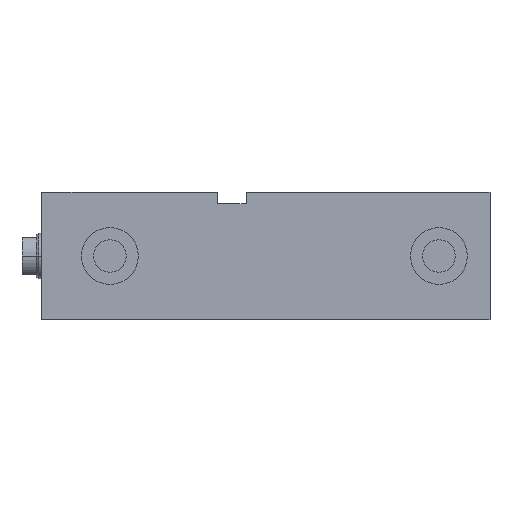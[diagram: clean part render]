
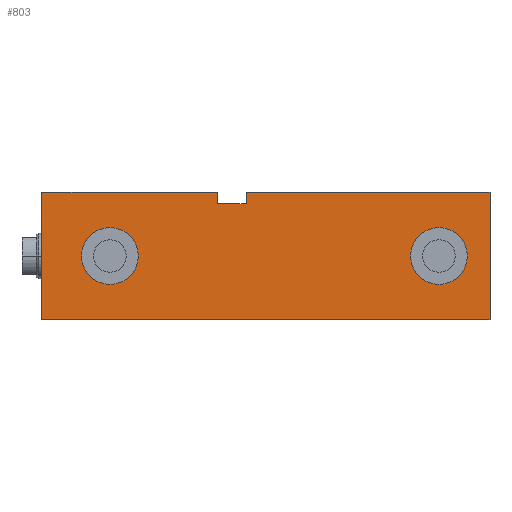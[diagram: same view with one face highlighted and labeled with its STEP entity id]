
A CAD part, left-side view. The second image highlights one B-rep face of the part: STEP entity #803.
In plain terms, the highlighted planar face has unit normal (-1, 0, 0).
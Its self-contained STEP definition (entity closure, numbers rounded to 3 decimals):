
#17 = CARTESIAN_POINT ( 'NONE',  ( -32.5, 158., -22.5 ) ) ;
#35 = VERTEX_POINT ( 'NONE', #2226 ) ;
#144 = LINE ( 'NONE', #421, #1286 ) ;
#180 = LINE ( 'NONE', #2978, #1356 ) ;
#186 = CARTESIAN_POINT ( 'NONE',  ( -32.5, 134., 0. ) ) ;
#231 = CIRCLE ( 'NONE', #284, 10. ) ;
#237 = VECTOR ( 'NONE', #2364, 1000. ) ;
#277 = ORIENTED_EDGE ( 'NONE', *, *, #2432, .T. ) ;
#284 = AXIS2_PLACEMENT_3D ( 'NONE', #1690, #980, #2885 ) ;
#295 = DIRECTION ( 'NONE',  ( -1., 0., 0. ) ) ;
#420 = DIRECTION ( 'NONE',  ( -1., 0., 0. ) ) ;
#421 = CARTESIAN_POINT ( 'NONE',  ( -32.5, 58., -22.5 ) ) ;
#511 = EDGE_CURVE ( 'NONE', #2011, #35, #2976, .T. ) ;
#521 = CARTESIAN_POINT ( 'NONE',  ( -32.5, 96., 18.5 ) ) ;
#565 = VERTEX_POINT ( 'NONE', #2802 ) ;
#571 = EDGE_CURVE ( 'NONE', #1907, #2955, #144, .T. ) ;
#648 = CARTESIAN_POINT ( 'NONE',  ( -32.5, 86., 18.5 ) ) ;
#679 = AXIS2_PLACEMENT_3D ( 'NONE', #186, #420, #1855 ) ;
#720 = CARTESIAN_POINT ( 'NONE',  ( -32.5, 96., 18.5 ) ) ;
#731 = ORIENTED_EDGE ( 'NONE', *, *, #1417, .F. ) ;
#751 = CIRCLE ( 'NONE', #679, 10. ) ;
#790 = LINE ( 'NONE', #521, #1065 ) ;
#803 = ADVANCED_FACE ( 'NONE', ( #1620, #3008, #988 ), #1179, .F. ) ;
#807 = EDGE_CURVE ( 'NONE', #836, #2419, #2936, .T. ) ;
#836 = VERTEX_POINT ( 'NONE', #1888 ) ;
#837 = EDGE_CURVE ( 'NONE', #2955, #1869, #1545, .T. ) ;
#840 = LINE ( 'NONE', #2944, #237 ) ;
#860 = DIRECTION ( 'NONE',  ( 0., 0., 1. ) ) ;
#902 = CARTESIAN_POINT ( 'NONE',  ( -32.5, 0., -22.5 ) ) ;
#923 = DIRECTION ( 'NONE',  ( 0., 0., -1. ) ) ;
#930 = LINE ( 'NONE', #1834, #2603 ) ;
#980 = DIRECTION ( 'NONE',  ( -1., 0., 0. ) ) ;
#983 = ORIENTED_EDGE ( 'NONE', *, *, #837, .T. ) ;
#988 = FACE_BOUND ( 'NONE', #2350, .T. ) ;
#1030 = EDGE_CURVE ( 'NONE', #1338, #3000, #790, .T. ) ;
#1065 = VECTOR ( 'NONE', #1472, 1000. ) ;
#1072 = ORIENTED_EDGE ( 'NONE', *, *, #1030, .F. ) ;
#1099 = DIRECTION ( 'NONE',  ( 0., -1., 0. ) ) ;
#1100 = DIRECTION ( 'NONE',  ( 0., 0., 1. ) ) ;
#1118 = ORIENTED_EDGE ( 'NONE', *, *, #807, .F. ) ;
#1165 = DIRECTION ( 'NONE',  ( 0., 0., 1. ) ) ;
#1179 = PLANE ( 'NONE',  #1236 ) ;
#1188 = EDGE_LOOP ( 'NONE', ( #731, #1118 ) ) ;
#1191 = CARTESIAN_POINT ( 'NONE',  ( -32.5, 58., -22.5 ) ) ;
#1218 = AXIS2_PLACEMENT_3D ( 'NONE', #2165, #295, #2175 ) ;
#1236 = AXIS2_PLACEMENT_3D ( 'NONE', #1191, #2810, #923 ) ;
#1286 = VECTOR ( 'NONE', #1389, 1000. ) ;
#1297 = CARTESIAN_POINT ( 'NONE',  ( -32.5, 58., 22.5 ) ) ;
#1330 = EDGE_CURVE ( 'NONE', #1907, #2011, #840, .T. ) ;
#1333 = DIRECTION ( 'NONE',  ( 0., -1., 0. ) ) ;
#1338 = VERTEX_POINT ( 'NONE', #720 ) ;
#1356 = VECTOR ( 'NONE', #1100, 1000. ) ;
#1389 = DIRECTION ( 'NONE',  ( 0., -1., 0. ) ) ;
#1392 = CARTESIAN_POINT ( 'NONE',  ( -32.5, 134., 10. ) ) ;
#1417 = EDGE_CURVE ( 'NONE', #2419, #836, #231, .T. ) ;
#1435 = EDGE_CURVE ( 'NONE', #1696, #565, #1482, .T. ) ;
#1472 = DIRECTION ( 'NONE',  ( 0., -1., 0. ) ) ;
#1482 = CIRCLE ( 'NONE', #1218, 10. ) ;
#1495 = LINE ( 'NONE', #1582, #1569 ) ;
#1545 = LINE ( 'NONE', #2104, #1700 ) ;
#1569 = VECTOR ( 'NONE', #1099, 1000. ) ;
#1582 = CARTESIAN_POINT ( 'NONE',  ( -32.5, 58., 22.5 ) ) ;
#1620 = FACE_OUTER_BOUND ( 'NONE', #2553, .T. ) ;
#1690 = CARTESIAN_POINT ( 'NONE',  ( -32.5, 18., 0. ) ) ;
#1696 = VERTEX_POINT ( 'NONE', #1392 ) ;
#1700 = VECTOR ( 'NONE', #2607, 1000. ) ;
#1720 = CARTESIAN_POINT ( 'NONE',  ( -32.5, 158., 22.5 ) ) ;
#1737 = VERTEX_POINT ( 'NONE', #1863 ) ;
#1834 = CARTESIAN_POINT ( 'NONE',  ( -32.5, 96., 18.5 ) ) ;
#1849 = ORIENTED_EDGE ( 'NONE', *, *, #1330, .F. ) ;
#1855 = DIRECTION ( 'NONE',  ( 0., 0., 1. ) ) ;
#1863 = CARTESIAN_POINT ( 'NONE',  ( -32.5, 86., 22.5 ) ) ;
#1869 = VERTEX_POINT ( 'NONE', #2591 ) ;
#1878 = CARTESIAN_POINT ( 'NONE',  ( -32.5, 18., 0. ) ) ;
#1888 = CARTESIAN_POINT ( 'NONE',  ( -32.5, 18., -10. ) ) ;
#1907 = VERTEX_POINT ( 'NONE', #17 ) ;
#2011 = VERTEX_POINT ( 'NONE', #1720 ) ;
#2104 = CARTESIAN_POINT ( 'NONE',  ( -32.5, 0., -22.5 ) ) ;
#2159 = ORIENTED_EDGE ( 'NONE', *, *, #511, .F. ) ;
#2165 = CARTESIAN_POINT ( 'NONE',  ( -32.5, 134., 0. ) ) ;
#2175 = DIRECTION ( 'NONE',  ( 0., 0., 1. ) ) ;
#2226 = CARTESIAN_POINT ( 'NONE',  ( -32.5, 96., 22.5 ) ) ;
#2283 = CARTESIAN_POINT ( 'NONE',  ( -32.5, 18., 10. ) ) ;
#2350 = EDGE_LOOP ( 'NONE', ( #2478, #2676 ) ) ;
#2359 = VECTOR ( 'NONE', #1333, 1000. ) ;
#2364 = DIRECTION ( 'NONE',  ( 0., 0., 1. ) ) ;
#2417 = EDGE_CURVE ( 'NONE', #1737, #1869, #1495, .T. ) ;
#2419 = VERTEX_POINT ( 'NONE', #2283 ) ;
#2432 = EDGE_CURVE ( 'NONE', #1338, #35, #930, .T. ) ;
#2478 = ORIENTED_EDGE ( 'NONE', *, *, #1435, .F. ) ;
#2553 = EDGE_LOOP ( 'NONE', ( #3002, #2601, #1072, #277, #2159, #1849, #2859, #983 ) ) ;
#2591 = CARTESIAN_POINT ( 'NONE',  ( -32.5, 0., 22.5 ) ) ;
#2601 = ORIENTED_EDGE ( 'NONE', *, *, #2901, .F. ) ;
#2603 = VECTOR ( 'NONE', #860, 1000. ) ;
#2607 = DIRECTION ( 'NONE',  ( 0., 0., 1. ) ) ;
#2676 = ORIENTED_EDGE ( 'NONE', *, *, #2985, .F. ) ;
#2760 = AXIS2_PLACEMENT_3D ( 'NONE', #1878, #2833, #1165 ) ;
#2802 = CARTESIAN_POINT ( 'NONE',  ( -32.5, 134., -10. ) ) ;
#2810 = DIRECTION ( 'NONE',  ( 1., 0., 0. ) ) ;
#2833 = DIRECTION ( 'NONE',  ( -1., 0., 0. ) ) ;
#2859 = ORIENTED_EDGE ( 'NONE', *, *, #571, .T. ) ;
#2885 = DIRECTION ( 'NONE',  ( 0., 0., 1. ) ) ;
#2901 = EDGE_CURVE ( 'NONE', #3000, #1737, #180, .T. ) ;
#2936 = CIRCLE ( 'NONE', #2760, 10. ) ;
#2944 = CARTESIAN_POINT ( 'NONE',  ( -32.5, 158., -22.5 ) ) ;
#2955 = VERTEX_POINT ( 'NONE', #902 ) ;
#2976 = LINE ( 'NONE', #1297, #2359 ) ;
#2978 = CARTESIAN_POINT ( 'NONE',  ( -32.5, 86., 18.5 ) ) ;
#2985 = EDGE_CURVE ( 'NONE', #565, #1696, #751, .T. ) ;
#3000 = VERTEX_POINT ( 'NONE', #648 ) ;
#3002 = ORIENTED_EDGE ( 'NONE', *, *, #2417, .F. ) ;
#3008 = FACE_BOUND ( 'NONE', #1188, .T. ) ;
